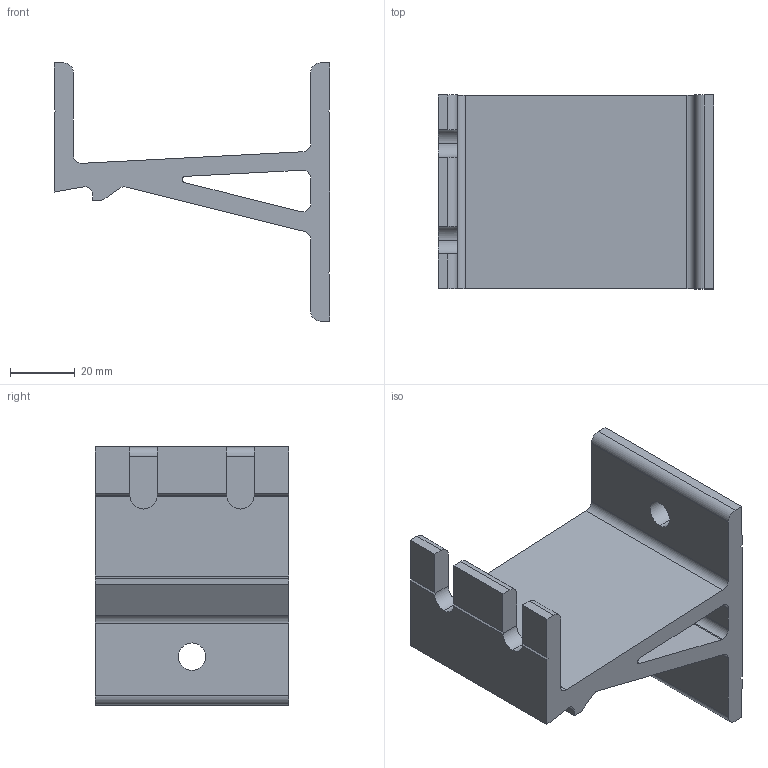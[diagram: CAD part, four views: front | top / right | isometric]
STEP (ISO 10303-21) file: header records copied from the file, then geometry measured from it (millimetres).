
FILE_DESCRIPTION (( 'STEP AP214' ), '1' );
FILE_NAME ('FAAL 64.step', '2017-04-05T07:55:05', ( '' ), ( '' ), 'SwSTEP 2.0', 'SolidWorks 2015', '' );
FILE_SCHEMA (( 'AUTOMOTIVE_DESIGN' ));
Length unit declared in the file: millimetre
Products named in the file (1): FAAL 64
Bounding box: 85.5 x 60 x 80 mm (x, y, z)
Volume: 88409.5 mm3; surface area: 31156.8 mm2
Topology: 1 solids, 1 shells, 67 faces, 197 edges, 130 vertices
Faces by surface type: plane 44, cylinder 23
Entity records: 2275 total; most frequent: CARTESIAN_POINT 431, ORIENTED_EDGE 394, DIRECTION 371, EDGE_CURVE 197, LINE 135, VECTOR 135, VERTEX_POINT 130, AXIS2_PLACEMENT_3D 118
